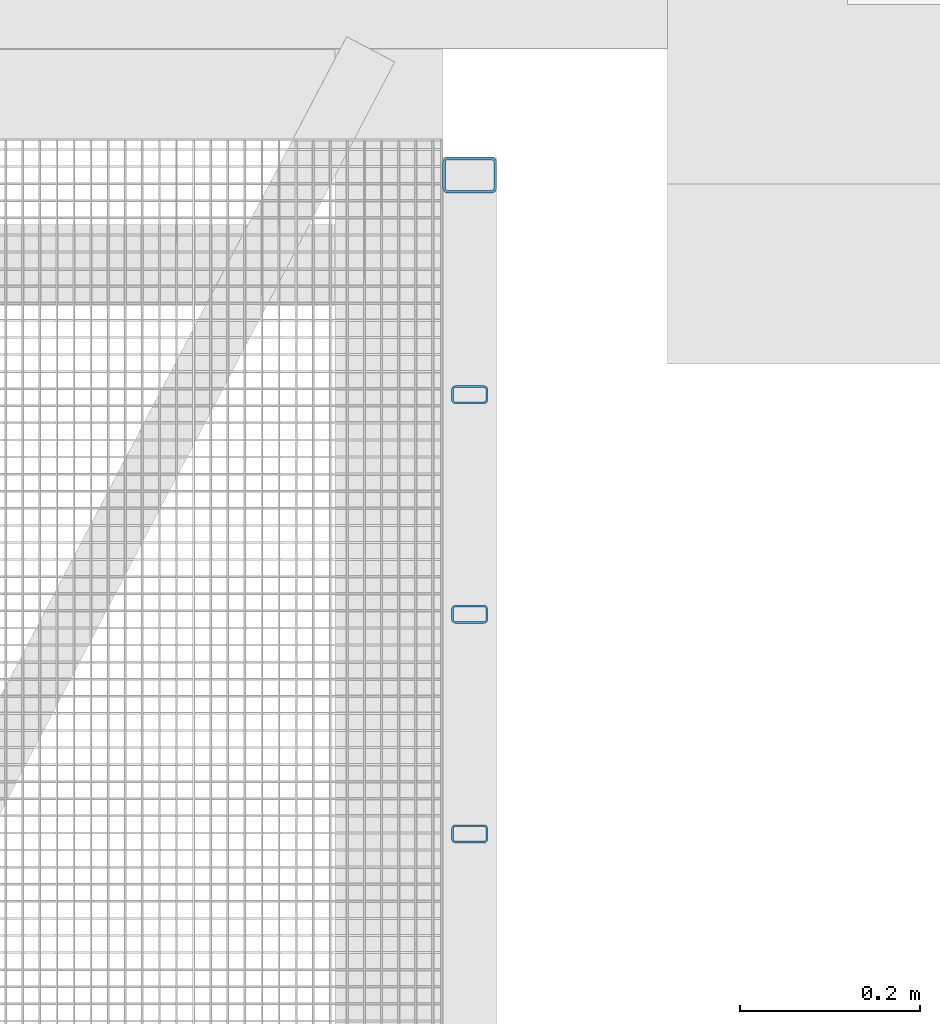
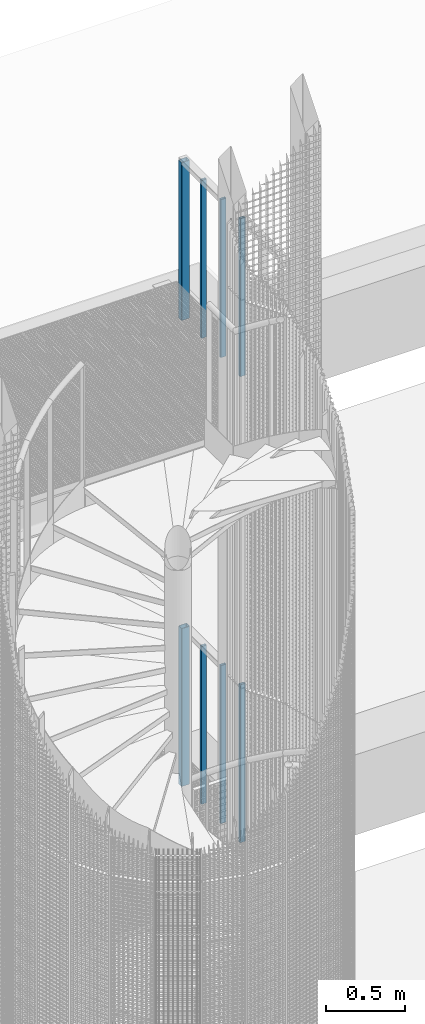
# One storey, part 75 of 1148: 8 columns, 8 elements without a shape of their own.
"""IFC2X3 building model written with IfcOpenShell, lengths in millimetres."""

from ifc_helpers import new_model, si_unit, frame, origin_with_axes, origin_2d_with_axis, place, context, subcontext, project, spatial, hollow_rectangle, extrude, material, type_object, element, aggregate, save


model = new_model("IFC2X3")

# Units and contexts
model_context = context("Model", 3, precision=1e-05, world=origin_with_axes())
body_context = subcontext(model_context, "Body", "Model", "MODEL_VIEW")
ifc_project = project(units=[si_unit("LENGTHUNIT", "METRE", prefix="MILLI"), si_unit("AREAUNIT", "SQUARE_METRE"), si_unit("VOLUMEUNIT", "CUBIC_METRE"), si_unit("MASSUNIT", "GRAM", prefix="KILO"), si_unit("TIMEUNIT", "SECOND"), si_unit("PLANEANGLEUNIT", "RADIAN"), si_unit("SOLIDANGLEUNIT", "STERADIAN"), si_unit("THERMODYNAMICTEMPERATUREUNIT", "DEGREE_CELSIUS"), si_unit("LUMINOUSINTENSITYUNIT", "LUMEN")], contexts=[model_context])

# Site, building, storey
site_placement = place(None, origin_with_axes())
site = spatial("IfcSite", under=ifc_project, at=site_placement, Name="Undefined", CompositionType="ELEMENT")
building_placement = place(site_placement, origin_with_axes())
building = spatial("IfcBuilding", under=site, at=building_placement, Name="Undefined", CompositionType="ELEMENT")
storey_placement = place(building_placement, origin_with_axes())
storey = spatial("IfcBuildingStorey", under=building, at=storey_placement, Name="Undefined", CompositionType="ELEMENT", Elevation=0.0)

# Assembly, column
assembly_1_placement = place(storey_placement, origin_with_axes())
assembly_1 = element("IfcElementAssembly", 1, at=assembly_1_placement, inside=storey, Name="STANCHION", AssemblyPlace="NOTDEFINED", PredefinedType="NOTDEFINED")
ifc_material = material(Name="Undefined/FE510D")
column_type_1 = type_object("IfcColumnType", Name="TUBE-R-40*20*2", PredefinedType="NOTDEFINED")
column_1_placement = place(assembly_1_placement, frame((23180.0649034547, 2415.85979616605, 13420.0), z_axis=(0.0, 0.0, 1.0), x_axis=(0.999999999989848, 4.50600000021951e-06, 0.0)))
column_1 = element("IfcColumn", 2, at=column_1_placement, type_object=column_type_1, material=ifc_material, Name="STANCHION", context=body_context, shape_type="SweptSolid", body=[
    extrude(hollow_rectangle(XDim=20.0, YDim=40.0, WallThickness=2.0, InnerFilletRadius=2.0, OuterFilletRadius=4.0, at=origin_2d_with_axis()), frame((0.0, 0.0, 1219.99999999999), z_axis=(0.0, 0.0, -1.0), x_axis=(0.0, 1.0, 0.0)), (0.0, 0.0, 1.0), 1220.0),
])
aggregate(assembly_1, [column_1])

assembly_2_placement = place(storey_placement, origin_with_axes())
assembly_2 = element("IfcElementAssembly", 3, at=assembly_2_placement, inside=storey, Name="STANCHION", AssemblyPlace="NOTDEFINED", PredefinedType="NOTDEFINED")
column_2_placement = place(assembly_2_placement, frame((23180.0660036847, 2171.68979616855, 13420.0), z_axis=(0.0, 0.0, 1.0), x_axis=(0.999999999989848, 4.50600000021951e-06, 0.0)))
column_2 = element("IfcColumn", 4, at=column_2_placement, type_object=column_type_1, material=ifc_material, Name="STANCHION", context=body_context, shape_type="SweptSolid", body=[
    extrude(hollow_rectangle(XDim=20.0, YDim=40.0, WallThickness=2.0, InnerFilletRadius=2.0, OuterFilletRadius=4.0, at=origin_2d_with_axis()), frame((0.0, 0.0, 1219.99999999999), z_axis=(0.0, 0.0, -1.0), x_axis=(0.0, 1.0, 0.0)), (0.0, 0.0, 1.0), 1220.0),
])
aggregate(assembly_2, [column_2])

assembly_3_placement = place(storey_placement, origin_with_axes())
assembly_3 = element("IfcElementAssembly", 5, at=assembly_3_placement, inside=storey, Name="STANCHION", AssemblyPlace="NOTDEFINED", PredefinedType="NOTDEFINED")
column_3_placement = place(assembly_3_placement, frame((23180.0671039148, 1927.51979617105, 13420.0), z_axis=(0.0, 0.0, 1.0), x_axis=(0.999999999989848, 4.50600000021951e-06, 0.0)))
column_3 = element("IfcColumn", 6, at=column_3_placement, type_object=column_type_1, material=ifc_material, Name="STANCHION", context=body_context, shape_type="SweptSolid", body=[
    extrude(hollow_rectangle(XDim=20.0, YDim=40.0, WallThickness=2.0, InnerFilletRadius=2.0, OuterFilletRadius=4.0, at=origin_2d_with_axis()), frame((0.0, 0.0, 1219.99999999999), z_axis=(0.0, 0.0, -1.0), x_axis=(0.0, 1.0, 0.0)), (0.0, 0.0, 1.0), 1220.0),
])
aggregate(assembly_3, [column_3])

assembly_4_placement = place(storey_placement, origin_with_axes())
assembly_4 = element("IfcElementAssembly", 7, at=assembly_4_placement, inside=storey, Name="STANCHION", AssemblyPlace="NOTDEFINED", PredefinedType="NOTDEFINED")
column_4_placement = place(assembly_4_placement, frame((23180.0649034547, 2415.85979616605, 9820.0), z_axis=(0.0, 0.0, 1.0), x_axis=(0.999999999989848, 4.50600000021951e-06, 0.0)))
column_4 = element("IfcColumn", 8, at=column_4_placement, type_object=column_type_1, material=ifc_material, Name="STANCHION", context=body_context, shape_type="SweptSolid", body=[
    extrude(hollow_rectangle(XDim=20.0, YDim=40.0, WallThickness=2.0, InnerFilletRadius=2.0, OuterFilletRadius=4.0, at=origin_2d_with_axis()), frame((0.0, 0.0, 1219.99999999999), z_axis=(0.0, 0.0, -1.0), x_axis=(0.0, 1.0, 0.0)), (0.0, 0.0, 1.0), 1220.0),
])
aggregate(assembly_4, [column_4])

assembly_5_placement = place(storey_placement, origin_with_axes())
assembly_5 = element("IfcElementAssembly", 9, at=assembly_5_placement, inside=storey, Name="STANCHION", AssemblyPlace="NOTDEFINED", PredefinedType="NOTDEFINED")
column_5_placement = place(assembly_5_placement, frame((23180.0660036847, 2171.68979616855, 9820.0), z_axis=(0.0, 0.0, 1.0), x_axis=(0.999999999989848, 4.50600000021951e-06, 0.0)))
column_5 = element("IfcColumn", 10, at=column_5_placement, type_object=column_type_1, material=ifc_material, Name="STANCHION", context=body_context, shape_type="SweptSolid", body=[
    extrude(hollow_rectangle(XDim=20.0, YDim=40.0, WallThickness=2.0, InnerFilletRadius=2.0, OuterFilletRadius=4.0, at=origin_2d_with_axis()), frame((0.0, 0.0, 1219.99999999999), z_axis=(0.0, 0.0, -1.0), x_axis=(0.0, 1.0, 0.0)), (0.0, 0.0, 1.0), 1220.0),
])
aggregate(assembly_5, [column_5])

assembly_6_placement = place(storey_placement, origin_with_axes())
assembly_6 = element("IfcElementAssembly", 11, at=assembly_6_placement, inside=storey, Name="STANCHION", AssemblyPlace="NOTDEFINED", PredefinedType="NOTDEFINED")
column_6_placement = place(assembly_6_placement, frame((23180.0671039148, 1927.51979617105, 9820.0), z_axis=(0.0, 0.0, 1.0), x_axis=(0.999999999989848, 4.50600000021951e-06, 0.0)))
column_6 = element("IfcColumn", 12, at=column_6_placement, type_object=column_type_1, material=ifc_material, Name="STANCHION", context=body_context, shape_type="SweptSolid", body=[
    extrude(hollow_rectangle(XDim=20.0, YDim=40.0, WallThickness=2.0, InnerFilletRadius=2.0, OuterFilletRadius=4.0, at=origin_2d_with_axis()), frame((0.0, 0.0, 1219.99999999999), z_axis=(0.0, 0.0, -1.0), x_axis=(0.0, 1.0, 0.0)), (0.0, 0.0, 1.0), 1220.0),
])
aggregate(assembly_6, [column_6])

assembly_7_placement = place(storey_placement, origin_with_axes())
assembly_7 = element("IfcElementAssembly", 13, at=assembly_7_placement, inside=storey, Name="STANCHION", AssemblyPlace="NOTDEFINED", PredefinedType="NOTDEFINED")
column_type_2 = type_object("IfcColumnType", Name="TUBE-R-60*40*3", PredefinedType="NOTDEFINED")
column_7_placement = place(assembly_7_placement, frame((23180.0636534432, 2660.00840282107, 13420.0), z_axis=(0.0, 0.0, 1.0), x_axis=(0.999999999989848, 4.50600000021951e-06, 0.0)))
column_7 = element("IfcColumn", 14, at=column_7_placement, type_object=column_type_2, material=ifc_material, Name="STANCHION", context=body_context, shape_type="SweptSolid", body=[
    extrude(hollow_rectangle(XDim=40.0, YDim=60.0, WallThickness=3.0, InnerFilletRadius=3.0, OuterFilletRadius=6.0, at=origin_2d_with_axis()), frame((0.0, 0.0, 1219.99999999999), z_axis=(0.0, 0.0, -1.0), x_axis=(0.0, 1.0, 0.0)), (0.0, 0.0, 1.0), 1220.0),
])
aggregate(assembly_7, [column_7])

assembly_8_placement = place(storey_placement, origin_with_axes())
assembly_8 = element("IfcElementAssembly", 15, at=assembly_8_placement, inside=storey, Name="STANCHION", AssemblyPlace="NOTDEFINED", PredefinedType="NOTDEFINED")
column_8_placement = place(assembly_8_placement, frame((23180.0636534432, 2660.00840282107, 9820.0), z_axis=(0.0, 0.0, 1.0), x_axis=(0.999999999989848, 4.50600000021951e-06, 0.0)))
column_8 = element("IfcColumn", 16, at=column_8_placement, type_object=column_type_2, material=ifc_material, Name="STANCHION", context=body_context, shape_type="SweptSolid", body=[
    extrude(hollow_rectangle(XDim=40.0, YDim=60.0, WallThickness=3.0, InnerFilletRadius=3.0, OuterFilletRadius=6.0, at=origin_2d_with_axis()), frame((0.0, 0.0, 1219.99999999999), z_axis=(0.0, 0.0, -1.0), x_axis=(0.0, 1.0, 0.0)), (0.0, 0.0, 1.0), 1220.0),
])
aggregate(assembly_8, [column_8])

save(model, "model.ifc")
